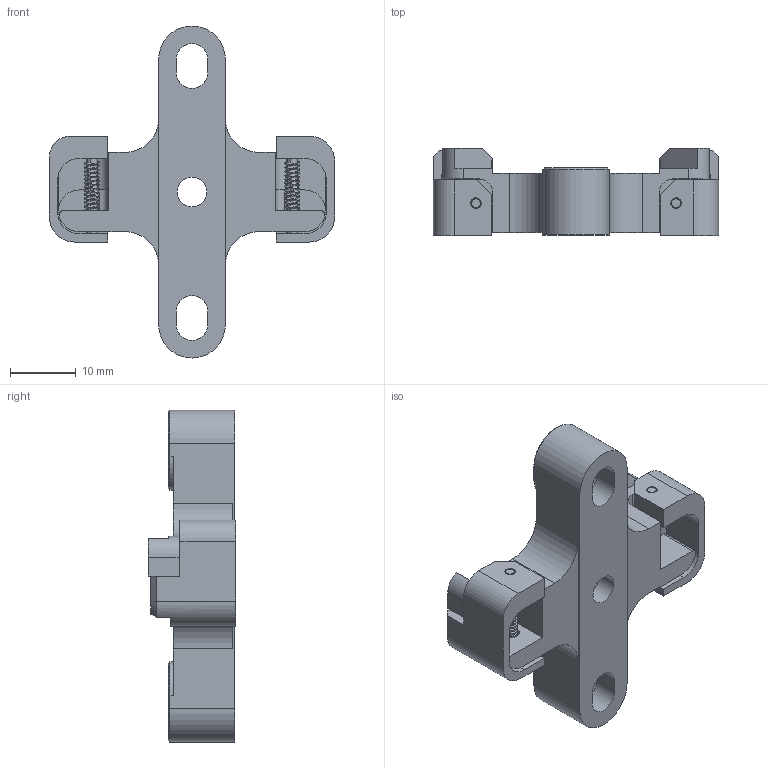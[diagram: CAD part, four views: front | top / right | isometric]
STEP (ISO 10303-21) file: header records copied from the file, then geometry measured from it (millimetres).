
FILE_DESCRIPTION((''),'2;1');
FILE_NAME('LFM2-A_ASM','2025-04-08T09:26:43',('R&D'),(''),'CREO PARAMETRIC BY PTC INC, 2021063','CREO PARAMETRIC BY PTC INC, 2021063','');
FILE_SCHEMA(('CONFIG_CONTROL_DESIGN'));
Products named in the file (9): LFM2-A-A2; LFM2-A-A3; LFM2-A-A4; LFM2-A-A5; LFM2-A-A6; LFM2-A-A7; LFM2-A-A8; LFM2-A-A1_ASM; LFM2-A_ASM
Assembly tree (8 placements, depth 3):
  LFM2-A_ASM
    LFM2-A-A1_ASM
      LFM2-A-A2
      LFM2-A-A3
      LFM2-A-A4
      LFM2-A-A5
      LFM2-A-A6
      LFM2-A-A7
      LFM2-A-A8
Bounding box: 43.43 x 13.34 x 50.55 mm (x, y, z)
Volume: 7358.6 mm3; surface area: 6012.3 mm2
Topology: 7 solids, 7 shells, 281 faces, 753 edges, 489 vertices
Faces by surface type: plane 139, cylinder 122, cone 12, torus 4, bspline 4
Entity records: 49951 total; most frequent: CARTESIAN_POINT 42805, ORIENTED_EDGE 1506, DIRECTION 1386, EDGE_CURVE 753, VERTEX_POINT 489, AXIS2_PLACEMENT_3D 470, VECTOR 446, LINE 446
